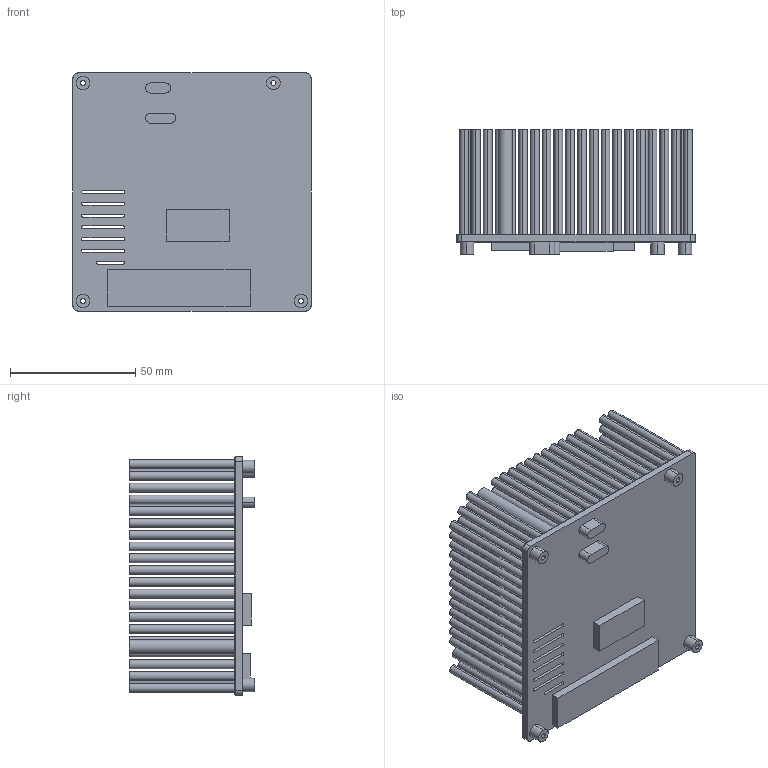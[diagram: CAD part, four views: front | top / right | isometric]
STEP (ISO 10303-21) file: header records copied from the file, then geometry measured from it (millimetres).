
FILE_DESCRIPTION (( 'STEP AP214' ), '1' );
FILE_NAME ('G502-0460-301A_20230301.STEP', '2023-03-01T17:02:37', ( '' ), ( '' ), 'SwSTEP 2.0', 'SolidWorks 2022', '' );
FILE_SCHEMA (( 'AUTOMOTIVE_DESIGN' ));
Length unit declared in the file: millimetre
Products named in the file (1): G502-0460-301A_20230301
Bounding box: 95 x 50 x 95 mm (x, y, z)
Volume: 183812.8 mm3; surface area: 196557.7 mm2
Topology: 1 solids, 1 shells, 1262 faces, 2629 edges, 1724 vertices
Faces by surface type: cylinder 820, plane 438, cone 4
Entity records: 34387 total; most frequent: DIRECTION 6799, CARTESIAN_POINT 5616, ORIENTED_EDGE 5258, AXIS2_PLACEMENT_3D 2907, EDGE_CURVE 2629, VERTEX_POINT 1724, CIRCLE 1644, EDGE_LOOP 1639
